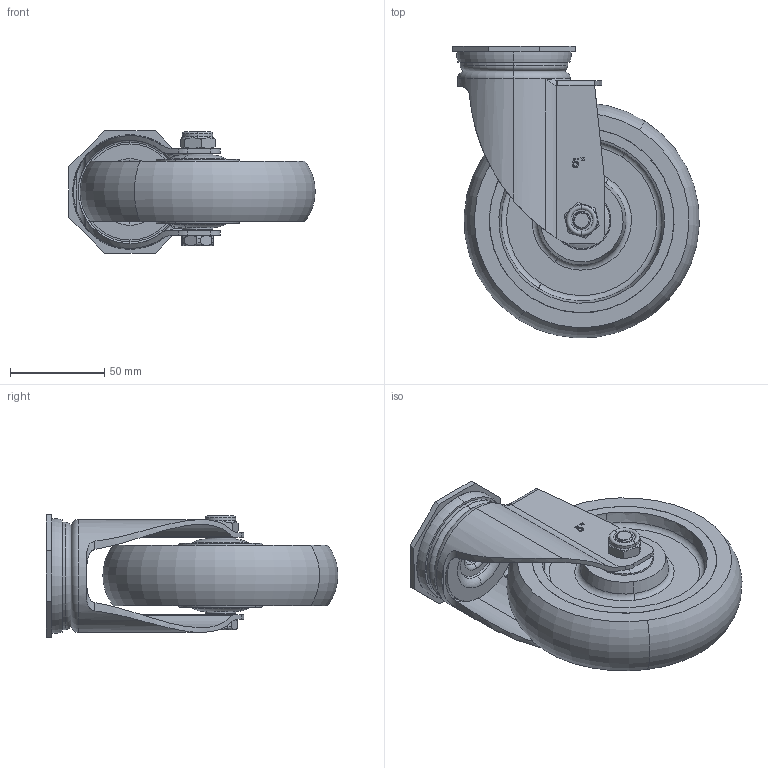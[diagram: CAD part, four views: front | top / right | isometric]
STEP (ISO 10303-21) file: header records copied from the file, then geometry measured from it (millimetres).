
FILE_DESCRIPTION (( 'STEP AP203' ), '1' );
FILE_NAME ('5寸孔顶万向.STEP', '2024-03-19T03:40:34', ( '微软用户' ), ( '微软中国' ), 'SwSTEP 2.0', 'SolidWorks 2008', '' );
FILE_SCHEMA (( 'CONFIG_CONTROL_DESIGN' ));
Length unit declared in the file: millimetre
Products named in the file (7): 5渡謂階勀砃; 2023-3-8  中型5寸万向支架_默认; M10蹟譫; 40.2mm中型中管_默认; M10-55蹟裝; 中型5寸轮_默认; 孔顶_默认
Assembly tree (6 placements, depth 2):
  5渡謂階勀砃
    2023-3-8  中型5寸万向支架_默认
    孔顶_默认
    M10蹟譫
    中型5寸轮_默认
    40.2mm中型中管_默认
    M10-55蹟裝
Bounding box: 130.94 x 155.05 x 65.01 mm (x, y, z)
Volume: 391414.2 mm3; surface area: 93305.9 mm2
Topology: 6 solids, 6 shells, 450 faces, 1138 edges, 737 vertices
Faces by surface type: plane 174, cylinder 114, bspline 86, torus 56, cone 20
Entity records: 19546 total; most frequent: CARTESIAN_POINT 8579, ORIENTED_EDGE 2268, DIRECTION 1904, EDGE_CURVE 1134, VERTEX_POINT 737, AXIS2_PLACEMENT_3D 687, VECTOR 530, LINE 530
